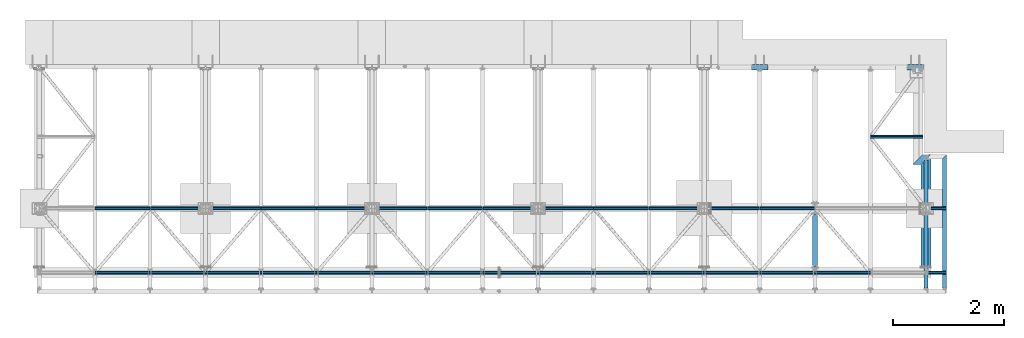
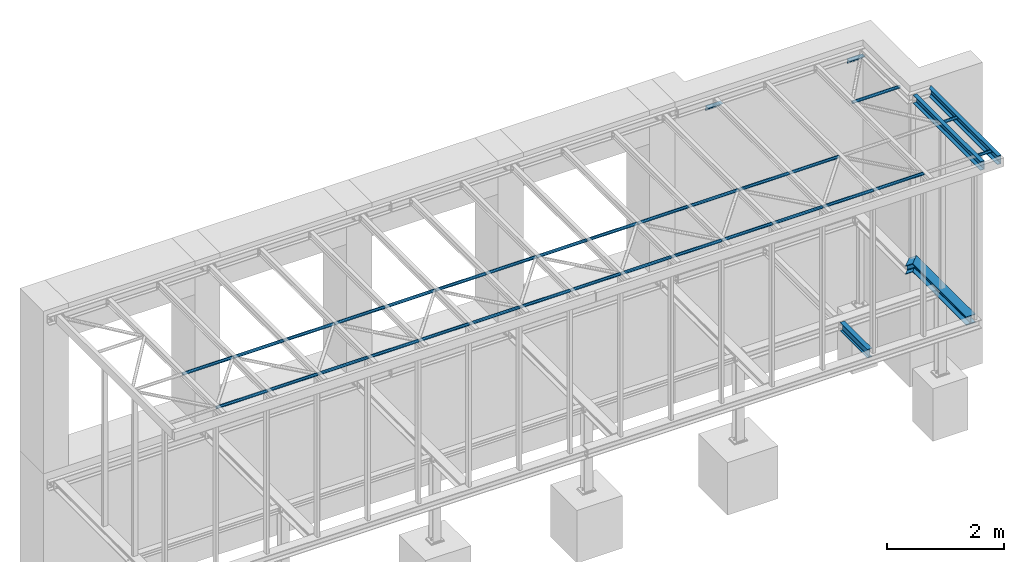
# One storey, part 5 of 23: 37 beams, 37 elements without a shape of their own.
"""IFC2X3 building model written with IfcOpenShell, lengths in millimetres."""

import ifcopenshell
import ifcopenshell.guid

model = None  # the IFC model being written
_history = None  # IfcOwnerHistory: only IFC2X3 demands one
_inside = {}  # id of a spatial element -> (the spatial element, [elements in it])
_under = {}  # id of a project, library or spatial element -> (it, [spatial elements below it])
_declared = {}  # id of a project -> (the project, [libraries it declares])
_typed = {}  # id of a type object -> (the type object, [elements of that type])
_made_of = {}  # id of a material, layer set ... -> (it, [elements and type objects made of it])


def new_model(schema):
    """Start an empty IFC model of exactly this schema.

    Asked for "IFC4X3", IfcOpenShell would pick the latest addendum, in which some entities
    have other attributes; the version numbers below select the first issue.
    IFC2X3 requires an IfcOwnerHistory on every rooted entity: one is made here for all.
    """
    global model, _history
    if schema == "IFC4X3":
        model = ifcopenshell.file(schema_version=(4, 3, 0, 0))
    else:
        model = ifcopenshell.file(schema=schema)
    _inside.clear()
    _under.clear()
    _declared.clear()
    _typed.clear()
    _made_of.clear()
    _history = None
    if model.schema == "IFC2X3":
        org = make("IfcOrganization", Name="unknown")
        user = make(
            "IfcPersonAndOrganization",
            ThePerson=make("IfcPerson", FamilyName="unknown"),
            TheOrganization=org,
        )
        app = make(
            "IfcApplication",
            ApplicationDeveloper=org,
            Version="unknown",
            ApplicationFullName="unknown",
            ApplicationIdentifier="unknown",
        )
        _history = make(
            "IfcOwnerHistory",
            OwningUser=user,
            OwningApplication=app,
            ChangeAction="ADDED",
            CreationDate=0,
        )
    return model


def make(cls, **values):
    """One entity of the class cls with the attributes given. An attribute that is None is left unset."""
    return model.create_entity(
        cls, **{name: value for name, value in values.items() if value is not None}
    )


def rooted(cls, **values):
    """An entity with a GlobalId (a new one), such as an element, a storey or a relation."""
    return make(cls, GlobalId=ifcopenshell.guid.new(), OwnerHistory=_history, **values)


def si_unit(unit_type, name, prefix=None):
    """IfcSIUnit, for example si_unit("LENGTHUNIT", "METRE", prefix="MILLI")."""
    return make("IfcSIUnit", UnitType=unit_type, Prefix=prefix, Name=name)


def assignment(units):
    """IfcUnitAssignment: the units of a project."""
    return None if units is None else make("IfcUnitAssignment", Units=units)


def point(xyz):
    """IfcCartesianPoint."""
    return None if xyz is None else make("IfcCartesianPoint", Coordinates=xyz)


def direction(xyz):
    """IfcDirection."""
    return None if xyz is None else make("IfcDirection", DirectionRatios=xyz)


def frame(location, z_axis=None, x_axis=None):
    """IfcAxis2Placement3D, a coordinate frame: its origin and axes. An axis left out is left unset."""
    return make(
        "IfcAxis2Placement3D",
        Location=point(location),
        Axis=direction(z_axis),
        RefDirection=direction(x_axis),
    )


def frame_2d(location, x_axis=None):
    """IfcAxis2Placement2D, a coordinate frame in the plane: its origin and x axis."""
    return make(
        "IfcAxis2Placement2D", Location=point(location), RefDirection=direction(x_axis)
    )


def origin_with_axes():
    """The frame at (0, 0, 0) with the z axis (0, 0, 1) and the x axis (1, 0, 0) written out."""
    return frame((0.0, 0.0, 0.0), z_axis=(0.0, 0.0, 1.0), x_axis=(1.0, 0.0, 0.0))


def origin_2d_with_axis():
    """The frame at (0, 0) in the plane with the x axis (1, 0) written out."""
    return frame_2d((0.0, 0.0), x_axis=(1.0, 0.0))


def place(relative_to, where):
    """IfcLocalPlacement: puts the frame where relative to a parent placement (None: the world)."""
    return make(
        "IfcLocalPlacement", PlacementRelTo=relative_to, RelativePlacement=where
    )


def context(
    kind, dimensions, precision=None, world=None, true_north=None, identifier=None
):
    """IfcGeometricRepresentationContext, for example the 3D "Model" context."""
    return make(
        "IfcGeometricRepresentationContext",
        ContextIdentifier=identifier,
        ContextType=kind,
        CoordinateSpaceDimension=dimensions,
        Precision=precision,
        WorldCoordinateSystem=world,
        TrueNorth=true_north,
    )


def subcontext(parent, identifier, kind, view, scale=None):
    """IfcGeometricRepresentationSubContext, for example "Body" below "Model"."""
    return make(
        "IfcGeometricRepresentationSubContext",
        ContextIdentifier=identifier,
        ContextType=kind,
        ParentContext=parent,
        TargetScale=scale,
        TargetView=view,
    )


def project(units=None, contexts=None):
    """IfcProject with its units and contexts."""
    return rooted(
        "IfcProject",
        Name="project",
        RepresentationContexts=contexts,
        UnitsInContext=assignment(units),
    )


def spatial(cls, under=None, at=None, **own):
    """A site, building, storey or space (cls), placed at a placement, below another one or the project."""
    s = rooted(cls, ObjectPlacement=at, **own)
    if under is not None:
        _under.setdefault(under.id(), (under, []))[1].append(s)
    return s


def profile(cls, at=None, kind="AREA", **sizes):
    """A parametric profile (cls). Its sizes go by their IFC names, for example OverallWidth=200.0."""
    return make(cls, ProfileType=kind, Position=at, **sizes)


def hollow_circle(**sizes):
    """IfcCircleHollowProfileDef."""
    return profile("IfcCircleHollowProfileDef", **sizes)


def i_section(**sizes):
    """IfcIShapeProfileDef."""
    return profile("IfcIShapeProfileDef", **sizes)


def l_section(**sizes):
    """IfcLShapeProfileDef."""
    return profile("IfcLShapeProfileDef", **sizes)


def u_section(**sizes):
    """IfcUShapeProfileDef."""
    return profile("IfcUShapeProfileDef", **sizes)


def extrude(swept, where, along, depth):
    """IfcExtrudedAreaSolid: the profile swept, set in the frame where, extruded along a direction by depth."""
    return make(
        "IfcExtrudedAreaSolid",
        SweptArea=swept,
        Position=where,
        ExtrudedDirection=direction(along),
        Depth=depth,
    )


def clip(a, b, op="DIFFERENCE"):
    """IfcBooleanClippingResult: the solid a cut by the half space b."""
    return make(
        "IfcBooleanClippingResult", Operator=op, FirstOperand=a, SecondOperand=b
    )


def halfspace(plane, agree):
    """IfcHalfSpaceSolid: all space on one side of the plane z = 0 of the frame plane."""
    return make(
        "IfcHalfSpaceSolid",
        BaseSurface=make("IfcPlane", Position=plane),
        AgreementFlag=agree,
    )


def shape(context_of_items, identifier, shape_type, items):
    """IfcShapeRepresentation: the items that make up one representation, for example the "Body"."""
    return make(
        "IfcShapeRepresentation",
        ContextOfItems=context_of_items,
        RepresentationIdentifier=identifier,
        RepresentationType=shape_type,
        Items=items,
    )


def material(Name=None, Category=None):
    """IfcMaterial."""
    return make("IfcMaterial", Name=Name, Category=Category)


def made_of(thing, what):
    """Note that an element or type object is made of a material, layer set ...; save() writes the relation."""
    if what is not None:
        _made_of.setdefault(what.id(), (what, []))[1].append(thing)
    return thing


def type_object(cls, material=None, **own):
    """A type object (cls), such as IfcWallType, which elements share."""
    return made_of(rooted(cls, **own), material)


def element(
    cls,
    number,
    at=None,
    inside=None,
    cuts=None,
    type_object=None,
    material=None,
    context=None,
    identifier="Body",
    shape_type=None,
    held_by="IfcProductDefinitionShape",
    body=None,
    shapes=None,
    **own,
):
    """One element of the class cls, such as IfcWall. Its Tag is "e" and its number.

    at: its placement. inside: the storey or other place that contains it. cuts: it is an
    opening in that element (IfcRelVoidsElement). A single representation is given by context,
    identifier, shape_type and body (its items); several are given by shapes. held_by: the class
    of the entity that holds the representations. save() writes the other relations.
    """
    e = rooted(cls, Tag="e%d" % number, ObjectPlacement=at, **own)
    if body is not None:
        shapes = [shape(context, identifier, shape_type, body)]
    if shapes is not None:
        e.Representation = make(held_by, Representations=shapes)
    if inside is not None:
        _inside.setdefault(inside.id(), (inside, []))[1].append(e)
    if cuts is not None:
        rooted(
            "IfcRelVoidsElement", RelatingBuildingElement=cuts, RelatedOpeningElement=e
        )
    if type_object is not None:
        _typed.setdefault(type_object.id(), (type_object, []))[1].append(e)
    return made_of(e, material)


def aggregate(whole, parts):
    """IfcRelAggregates: a whole, such as a stair, and the parts it consists of."""
    return rooted("IfcRelAggregates", RelatingObject=whole, RelatedObjects=parts)


def save(model, path):
    """Write the relations noted so far, then the file.

    IfcRelAggregates (storeys below a building ...), IfcRelContainedInSpatialStructure (elements
    in a storey), IfcRelDefinesByType, IfcRelAssociatesMaterial and IfcRelDeclares: one each for
    every whole, place, type object, material and project.
    """
    for whole, parts in _under.values():
        aggregate(whole, parts)
    for where, things in _inside.values():
        rooted(
            "IfcRelContainedInSpatialStructure",
            RelatedElements=things,
            RelatingStructure=where,
        )
    for kind, things in _typed.values():
        rooted("IfcRelDefinesByType", RelatedObjects=things, RelatingType=kind)
    for what, things in _made_of.values():
        rooted("IfcRelAssociatesMaterial", RelatedObjects=things, RelatingMaterial=what)
    for by, libraries in _declared.values():
        rooted("IfcRelDeclares", RelatingContext=by, RelatedDefinitions=libraries)
    model.write(path)


model = new_model("IFC2X3")

# Units and contexts
model_context = context("Model", 3, precision=1e-05, world=origin_with_axes())
body_context = subcontext(model_context, "Body", "Model", "MODEL_VIEW")
ifc_project = project(units=[si_unit("LENGTHUNIT", "METRE", prefix="MILLI"), si_unit("AREAUNIT", "SQUARE_METRE"), si_unit("VOLUMEUNIT", "CUBIC_METRE"), si_unit("MASSUNIT", "GRAM", prefix="KILO"), si_unit("TIMEUNIT", "SECOND"), si_unit("PLANEANGLEUNIT", "RADIAN"), si_unit("SOLIDANGLEUNIT", "STERADIAN"), si_unit("THERMODYNAMICTEMPERATUREUNIT", "DEGREE_CELSIUS"), si_unit("LUMINOUSINTENSITYUNIT", "LUMEN")], contexts=[model_context])

# Site, building, storey
site_placement = place(None, origin_with_axes())
site = spatial("IfcSite", under=ifc_project, at=site_placement, Name="Undefined", CompositionType="ELEMENT")
building_placement = place(site_placement, origin_with_axes())
building = spatial("IfcBuilding", under=site, at=building_placement, Name="Undefined", CompositionType="ELEMENT")
storey_placement = place(building_placement, origin_with_axes())
storey = spatial("IfcBuildingStorey", under=building, at=storey_placement, Name="Undefined", CompositionType="ELEMENT", Elevation=0.0)

# Assembly, beam
assembly_1_placement = place(storey_placement, origin_with_axes())
assembly_1 = element("IfcElementAssembly", 1, at=assembly_1_placement, inside=storey, Name="Steel Assembly", AssemblyPlace="NOTDEFINED", PredefinedType="RIGID_FRAME")
ifc_material = material(Name="STEEL/S235JR")
beam_type_1 = type_object("IfcBeamType", Name="CHS60.3*5", PredefinedType="NOTDEFINED")
beam_1_placement = place(assembly_1_placement, frame((16090.0, 100.0, 3230.0), z_axis=(0.0, 0.0, -1.0), x_axis=(1.0, 0.0, 0.0)))
beam_1 = element("IfcBeam", 2, at=beam_1_placement, type_object=beam_type_1, material=ifc_material, Name="NOSNÍK", ObjectType="CHS60.3*5", context=body_context, shape_type="SweptSolid", body=[
    extrude(hollow_circle(Radius=30.15, WallThickness=5.0, at=origin_2d_with_axis()), frame((329.5, 0.0, 0.0), z_axis=(-1.0, 0.0, 0.0), x_axis=(0.0, -1.0, 0.0)), (0.0, 0.0, 1.0), 329.5),
])
aggregate(assembly_1, [beam_1])

assembly_2_placement = place(storey_placement, origin_with_axes())
assembly_2 = element("IfcElementAssembly", 3, at=assembly_2_placement, inside=storey, Name="Steel Assembly", AssemblyPlace="NOTDEFINED", PredefinedType="RIGID_FRAME")
beam_2_placement = place(assembly_2_placement, frame((16090.0, 1260.0, 3230.0), z_axis=(0.0, 0.0, -1.0), x_axis=(1.0, 0.0, 0.0)))
beam_2 = element("IfcBeam", 4, at=beam_2_placement, type_object=beam_type_1, material=ifc_material, Name="NOSNÍK", ObjectType="CHS60.3*5", context=body_context, shape_type="SweptSolid", body=[
    extrude(hollow_circle(Radius=30.15, WallThickness=5.0, at=origin_2d_with_axis()), frame((329.5, 0.0, 0.0), z_axis=(-1.0, 0.0, 0.0), x_axis=(0.0, -1.0, 0.0)), (0.0, 0.0, 1.0), 329.5),
])
aggregate(assembly_2, [beam_2])

assembly_3_placement = place(storey_placement, origin_with_axes())
assembly_3 = element("IfcElementAssembly", 5, at=assembly_3_placement, inside=storey, Name="Steel Assembly", AssemblyPlace="NOTDEFINED", PredefinedType="RIGID_FRAME")
beam_3_placement = place(assembly_3_placement, frame((15050.0, 2550.0, 3230.0), z_axis=(0.0, 0.0, -1.0), x_axis=(1.0, 0.0, 0.0)))
beam_3 = element("IfcBeam", 6, at=beam_3_placement, type_object=beam_type_1, material=ifc_material, Name="NOSNÍK", ObjectType="CHS60.3*5", context=body_context, shape_type="SweptSolid", body=[
    extrude(hollow_circle(Radius=30.15, WallThickness=5.0, at=origin_2d_with_axis()), frame((945.0, 0.0, 0.0), z_axis=(-1.0, 0.0, 0.0), x_axis=(0.0, -1.0, 0.0)), (0.0, 0.0, 1.0), 945.0),
])
aggregate(assembly_3, [beam_3])

assembly_4_placement = place(storey_placement, origin_with_axes())
assembly_4 = element("IfcElementAssembly", 7, at=assembly_4_placement, inside=storey, Name="Steel Assembly", AssemblyPlace="NOTDEFINED", PredefinedType="RIGID_FRAME")
beam_4_placement = place(assembly_4_placement, frame((14052.35, 100.0, 3230.0), z_axis=(0.0, 0.0, -1.0), x_axis=(1.0, 0.0, 0.0)))
beam_4 = element("IfcBeam", 8, at=beam_4_placement, type_object=beam_type_1, material=ifc_material, Name="NOSNÍK", ObjectType="CHS60.3*5", context=body_context, shape_type="SweptSolid", body=[
    extrude(hollow_circle(Radius=30.15, WallThickness=5.0, at=origin_2d_with_axis()), frame((995.299999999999, 0.0, 0.0), z_axis=(-1.0, 0.0, 0.0), x_axis=(0.0, -1.0, 0.0)), (0.0, 0.0, 1.0), 995.3),
])
aggregate(assembly_4, [beam_4])

assembly_5_placement = place(storey_placement, origin_with_axes())
assembly_5 = element("IfcElementAssembly", 9, at=assembly_5_placement, inside=storey, Name="Steel Assembly", AssemblyPlace="NOTDEFINED", PredefinedType="RIGID_FRAME")
beam_5_placement = place(assembly_5_placement, frame((13052.35, 100.0, 3230.0), z_axis=(0.0, 0.0, -1.0), x_axis=(1.0, 0.0, 0.0)))
beam_5 = element("IfcBeam", 10, at=beam_5_placement, type_object=beam_type_1, material=ifc_material, Name="NOSNÍK", ObjectType="CHS60.3*5", context=body_context, shape_type="SweptSolid", body=[
    extrude(hollow_circle(Radius=30.15, WallThickness=5.0, at=origin_2d_with_axis()), frame((995.299999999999, 0.0, 0.0), z_axis=(-1.0, 0.0, 0.0), x_axis=(0.0, -1.0, 0.0)), (0.0, 0.0, 1.0), 995.3),
])
aggregate(assembly_5, [beam_5])

assembly_6_placement = place(storey_placement, origin_with_axes())
assembly_6 = element("IfcElementAssembly", 11, at=assembly_6_placement, inside=storey, Name="Steel Assembly", AssemblyPlace="NOTDEFINED", PredefinedType="RIGID_FRAME")
beam_6_placement = place(assembly_6_placement, frame((12052.35, 100.0, 3230.0), z_axis=(0.0, 0.0, -1.0), x_axis=(1.0, 0.0, 0.0)))
beam_6 = element("IfcBeam", 12, at=beam_6_placement, type_object=beam_type_1, material=ifc_material, Name="NOSNÍK", ObjectType="CHS60.3*5", context=body_context, shape_type="SweptSolid", body=[
    extrude(hollow_circle(Radius=30.15, WallThickness=5.0, at=origin_2d_with_axis()), frame((995.299999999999, 0.0, 0.0), z_axis=(-1.0, 0.0, 0.0), x_axis=(0.0, -1.0, 0.0)), (0.0, 0.0, 1.0), 995.3),
])
aggregate(assembly_6, [beam_6])

assembly_7_placement = place(storey_placement, origin_with_axes())
assembly_7 = element("IfcElementAssembly", 13, at=assembly_7_placement, inside=storey, Name="Steel Assembly", AssemblyPlace="NOTDEFINED", PredefinedType="RIGID_FRAME")
beam_7_placement = place(assembly_7_placement, frame((11052.35, 100.0, 3230.0), z_axis=(0.0, 0.0, -1.0), x_axis=(1.0, 0.0, 0.0)))
beam_7 = element("IfcBeam", 14, at=beam_7_placement, type_object=beam_type_1, material=ifc_material, Name="NOSNÍK", ObjectType="CHS60.3*5", context=body_context, shape_type="SweptSolid", body=[
    extrude(hollow_circle(Radius=30.15, WallThickness=5.0, at=origin_2d_with_axis()), frame((995.299999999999, 0.0, 0.0), z_axis=(-1.0, 0.0, 0.0), x_axis=(0.0, -1.0, 0.0)), (0.0, 0.0, 1.0), 995.3),
])
aggregate(assembly_7, [beam_7])

assembly_8_placement = place(storey_placement, origin_with_axes())
assembly_8 = element("IfcElementAssembly", 15, at=assembly_8_placement, inside=storey, Name="Steel Assembly", AssemblyPlace="NOTDEFINED", PredefinedType="RIGID_FRAME")
beam_8_placement = place(assembly_8_placement, frame((10052.35, 100.0, 3230.0), z_axis=(0.0, 0.0, -1.0), x_axis=(1.0, 0.0, 0.0)))
beam_8 = element("IfcBeam", 16, at=beam_8_placement, type_object=beam_type_1, material=ifc_material, Name="NOSNÍK", ObjectType="CHS60.3*5", context=body_context, shape_type="SweptSolid", body=[
    extrude(hollow_circle(Radius=30.15, WallThickness=5.0, at=origin_2d_with_axis()), frame((995.299999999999, 0.0, 0.0), z_axis=(-1.0, 0.0, 0.0), x_axis=(0.0, -1.0, 0.0)), (0.0, 0.0, 1.0), 995.3),
])
aggregate(assembly_8, [beam_8])

assembly_9_placement = place(storey_placement, origin_with_axes())
assembly_9 = element("IfcElementAssembly", 17, at=assembly_9_placement, inside=storey, Name="Steel Assembly", AssemblyPlace="NOTDEFINED", PredefinedType="RIGID_FRAME")
beam_9_placement = place(assembly_9_placement, frame((9052.35, 100.0, 3230.0), z_axis=(0.0, 0.0, -1.0), x_axis=(1.0, 0.0, 0.0)))
beam_9 = element("IfcBeam", 18, at=beam_9_placement, type_object=beam_type_1, material=ifc_material, Name="NOSNÍK", ObjectType="CHS60.3*5", context=body_context, shape_type="SweptSolid", body=[
    extrude(hollow_circle(Radius=30.15, WallThickness=5.0, at=origin_2d_with_axis()), frame((995.299999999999, 0.0, 0.0), z_axis=(-1.0, 0.0, 0.0), x_axis=(0.0, -1.0, 0.0)), (0.0, 0.0, 1.0), 995.3),
])
aggregate(assembly_9, [beam_9])

assembly_10_placement = place(storey_placement, origin_with_axes())
assembly_10 = element("IfcElementAssembly", 19, at=assembly_10_placement, inside=storey, Name="Steel Assembly", AssemblyPlace="NOTDEFINED", PredefinedType="RIGID_FRAME")
beam_10_placement = place(assembly_10_placement, frame((8052.35, 100.0, 3230.0), z_axis=(0.0, 0.0, -1.0), x_axis=(1.0, 0.0, 0.0)))
beam_10 = element("IfcBeam", 20, at=beam_10_placement, type_object=beam_type_1, material=ifc_material, Name="NOSNÍK", ObjectType="CHS60.3*5", context=body_context, shape_type="SweptSolid", body=[
    extrude(hollow_circle(Radius=30.15, WallThickness=5.0, at=origin_2d_with_axis()), frame((995.299999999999, 0.0, 0.0), z_axis=(-1.0, 0.0, 0.0), x_axis=(0.0, -1.0, 0.0)), (0.0, 0.0, 1.0), 995.3),
])
aggregate(assembly_10, [beam_10])

assembly_11_placement = place(storey_placement, origin_with_axes())
assembly_11 = element("IfcElementAssembly", 21, at=assembly_11_placement, inside=storey, Name="Steel Assembly", AssemblyPlace="NOTDEFINED", PredefinedType="RIGID_FRAME")
beam_11_placement = place(assembly_11_placement, frame((7052.35, 100.0, 3230.0), z_axis=(0.0, 0.0, -1.0), x_axis=(1.0, 0.0, 0.0)))
beam_11 = element("IfcBeam", 22, at=beam_11_placement, type_object=beam_type_1, material=ifc_material, Name="NOSNÍK", ObjectType="CHS60.3*5", context=body_context, shape_type="SweptSolid", body=[
    extrude(hollow_circle(Radius=30.15, WallThickness=5.0, at=origin_2d_with_axis()), frame((995.299999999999, 0.0, 0.0), z_axis=(-1.0, 0.0, 0.0), x_axis=(0.0, -1.0, 0.0)), (0.0, 0.0, 1.0), 995.3),
])
aggregate(assembly_11, [beam_11])

assembly_12_placement = place(storey_placement, origin_with_axes())
assembly_12 = element("IfcElementAssembly", 23, at=assembly_12_placement, inside=storey, Name="Steel Assembly", AssemblyPlace="NOTDEFINED", PredefinedType="RIGID_FRAME")
beam_12_placement = place(assembly_12_placement, frame((6052.35, 100.0, 3230.0), z_axis=(0.0, 0.0, -1.0), x_axis=(1.0, 0.0, 0.0)))
beam_12 = element("IfcBeam", 24, at=beam_12_placement, type_object=beam_type_1, material=ifc_material, Name="NOSNÍK", ObjectType="CHS60.3*5", context=body_context, shape_type="SweptSolid", body=[
    extrude(hollow_circle(Radius=30.15, WallThickness=5.0, at=origin_2d_with_axis()), frame((995.299999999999, 0.0, 0.0), z_axis=(-1.0, 0.0, 0.0), x_axis=(0.0, -1.0, 0.0)), (0.0, 0.0, 1.0), 995.3),
])
aggregate(assembly_12, [beam_12])

assembly_13_placement = place(storey_placement, origin_with_axes())
assembly_13 = element("IfcElementAssembly", 25, at=assembly_13_placement, inside=storey, Name="Steel Assembly", AssemblyPlace="NOTDEFINED", PredefinedType="RIGID_FRAME")
beam_13_placement = place(assembly_13_placement, frame((5052.35, 100.0, 3230.0), z_axis=(0.0, 0.0, -1.0), x_axis=(1.0, 0.0, 0.0)))
beam_13 = element("IfcBeam", 26, at=beam_13_placement, type_object=beam_type_1, material=ifc_material, Name="NOSNÍK", ObjectType="CHS60.3*5", context=body_context, shape_type="SweptSolid", body=[
    extrude(hollow_circle(Radius=30.15, WallThickness=5.0, at=origin_2d_with_axis()), frame((995.299999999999, 0.0, 0.0), z_axis=(-1.0, 0.0, 0.0), x_axis=(0.0, -1.0, 0.0)), (0.0, 0.0, 1.0), 995.3),
])
aggregate(assembly_13, [beam_13])

assembly_14_placement = place(storey_placement, origin_with_axes())
assembly_14 = element("IfcElementAssembly", 27, at=assembly_14_placement, inside=storey, Name="Steel Assembly", AssemblyPlace="NOTDEFINED", PredefinedType="RIGID_FRAME")
beam_14_placement = place(assembly_14_placement, frame((4052.35, 100.0, 3230.0), z_axis=(0.0, 0.0, -1.0), x_axis=(1.0, 0.0, 0.0)))
beam_14 = element("IfcBeam", 28, at=beam_14_placement, type_object=beam_type_1, material=ifc_material, Name="NOSNÍK", ObjectType="CHS60.3*5", context=body_context, shape_type="SweptSolid", body=[
    extrude(hollow_circle(Radius=30.15, WallThickness=5.0, at=origin_2d_with_axis()), frame((995.299999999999, 0.0, 0.0), z_axis=(-1.0, 0.0, 0.0), x_axis=(0.0, -1.0, 0.0)), (0.0, 0.0, 1.0), 995.3),
])
aggregate(assembly_14, [beam_14])

assembly_15_placement = place(storey_placement, origin_with_axes())
assembly_15 = element("IfcElementAssembly", 29, at=assembly_15_placement, inside=storey, Name="Steel Assembly", AssemblyPlace="NOTDEFINED", PredefinedType="RIGID_FRAME")
beam_15_placement = place(assembly_15_placement, frame((3052.35, 100.0, 3230.0), z_axis=(0.0, 0.0, -1.0), x_axis=(1.0, 0.0, 0.0)))
beam_15 = element("IfcBeam", 30, at=beam_15_placement, type_object=beam_type_1, material=ifc_material, Name="NOSNÍK", ObjectType="CHS60.3*5", context=body_context, shape_type="SweptSolid", body=[
    extrude(hollow_circle(Radius=30.15, WallThickness=5.0, at=origin_2d_with_axis()), frame((995.299999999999, 0.0, 0.0), z_axis=(-1.0, 0.0, 0.0), x_axis=(0.0, -1.0, 0.0)), (0.0, 0.0, 1.0), 995.3),
])
aggregate(assembly_15, [beam_15])

assembly_16_placement = place(storey_placement, origin_with_axes())
assembly_16 = element("IfcElementAssembly", 31, at=assembly_16_placement, inside=storey, Name="Steel Assembly", AssemblyPlace="NOTDEFINED", PredefinedType="RIGID_FRAME")
beam_16_placement = place(assembly_16_placement, frame((2052.35, 100.0, 3230.0), z_axis=(0.0, 0.0, -1.0), x_axis=(1.0, 0.0, 0.0)))
beam_16 = element("IfcBeam", 32, at=beam_16_placement, type_object=beam_type_1, material=ifc_material, Name="NOSNÍK", ObjectType="CHS60.3*5", context=body_context, shape_type="SweptSolid", body=[
    extrude(hollow_circle(Radius=30.15, WallThickness=5.0, at=origin_2d_with_axis()), frame((995.299999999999, 0.0, 0.0), z_axis=(-1.0, 0.0, 0.0), x_axis=(0.0, -1.0, 0.0)), (0.0, 0.0, 1.0), 995.3),
])
aggregate(assembly_16, [beam_16])

assembly_17_placement = place(storey_placement, origin_with_axes())
assembly_17 = element("IfcElementAssembly", 33, at=assembly_17_placement, inside=storey, Name="Steel Assembly", AssemblyPlace="NOTDEFINED", PredefinedType="RIGID_FRAME")
beam_17_placement = place(assembly_17_placement, frame((1052.35, 100.0, 3230.0), z_axis=(0.0, 0.0, -1.0), x_axis=(1.0, 0.0, 0.0)))
beam_17 = element("IfcBeam", 34, at=beam_17_placement, type_object=beam_type_1, material=ifc_material, Name="NOSNÍK", ObjectType="CHS60.3*5", context=body_context, shape_type="SweptSolid", body=[
    extrude(hollow_circle(Radius=30.15, WallThickness=5.0, at=origin_2d_with_axis()), frame((995.299999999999, 0.0, 0.0), z_axis=(-1.0, 0.0, 0.0), x_axis=(0.0, -1.0, 0.0)), (0.0, 0.0, 1.0), 995.3),
])
aggregate(assembly_17, [beam_17])

assembly_18_placement = place(storey_placement, origin_with_axes())
assembly_18 = element("IfcElementAssembly", 35, at=assembly_18_placement, inside=storey, Name="Steel Assembly", AssemblyPlace="NOTDEFINED", PredefinedType="RIGID_FRAME")
beam_18_placement = place(assembly_18_placement, frame((13052.35, 1260.0, 3230.0), z_axis=(0.0, 0.0, -1.0), x_axis=(1.0, 0.0, 0.0)))
beam_18 = element("IfcBeam", 36, at=beam_18_placement, type_object=beam_type_1, material=ifc_material, Name="NOSNÍK", ObjectType="CHS60.3*5", context=body_context, shape_type="SweptSolid", body=[
    extrude(hollow_circle(Radius=30.15, WallThickness=5.0, at=origin_2d_with_axis()), frame((995.299999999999, 0.0, 0.0), z_axis=(-1.0, 0.0, 0.0), x_axis=(0.0, -1.0, 0.0)), (0.0, 0.0, 1.0), 995.3),
])
aggregate(assembly_18, [beam_18])

assembly_19_placement = place(storey_placement, origin_with_axes())
assembly_19 = element("IfcElementAssembly", 37, at=assembly_19_placement, inside=storey, Name="Steel Assembly", AssemblyPlace="NOTDEFINED", PredefinedType="RIGID_FRAME")
beam_19_placement = place(assembly_19_placement, frame((12052.35, 1260.0, 3230.0), z_axis=(0.0, 0.0, -1.0), x_axis=(1.0, 0.0, 0.0)))
beam_19 = element("IfcBeam", 38, at=beam_19_placement, type_object=beam_type_1, material=ifc_material, Name="NOSNÍK", ObjectType="CHS60.3*5", context=body_context, shape_type="SweptSolid", body=[
    extrude(hollow_circle(Radius=30.15, WallThickness=5.0, at=origin_2d_with_axis()), frame((995.299999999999, 0.0, 0.0), z_axis=(-1.0, 0.0, 0.0), x_axis=(0.0, -1.0, 0.0)), (0.0, 0.0, 1.0), 995.3),
])
aggregate(assembly_19, [beam_19])

assembly_20_placement = place(storey_placement, origin_with_axes())
assembly_20 = element("IfcElementAssembly", 39, at=assembly_20_placement, inside=storey, Name="Steel Assembly", AssemblyPlace="NOTDEFINED", PredefinedType="RIGID_FRAME")
beam_20_placement = place(assembly_20_placement, frame((11052.35, 1260.0, 3230.0), z_axis=(0.0, 0.0, -1.0), x_axis=(1.0, 0.0, 0.0)))
beam_20 = element("IfcBeam", 40, at=beam_20_placement, type_object=beam_type_1, material=ifc_material, Name="NOSNÍK", ObjectType="CHS60.3*5", context=body_context, shape_type="SweptSolid", body=[
    extrude(hollow_circle(Radius=30.15, WallThickness=5.0, at=origin_2d_with_axis()), frame((995.299999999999, 0.0, 0.0), z_axis=(-1.0, 0.0, 0.0), x_axis=(0.0, -1.0, 0.0)), (0.0, 0.0, 1.0), 995.3),
])
aggregate(assembly_20, [beam_20])

assembly_21_placement = place(storey_placement, origin_with_axes())
assembly_21 = element("IfcElementAssembly", 41, at=assembly_21_placement, inside=storey, Name="Steel Assembly", AssemblyPlace="NOTDEFINED", PredefinedType="RIGID_FRAME")
beam_21_placement = place(assembly_21_placement, frame((10052.35, 1260.0, 3230.0), z_axis=(0.0, 0.0, -1.0), x_axis=(1.0, 0.0, 0.0)))
beam_21 = element("IfcBeam", 42, at=beam_21_placement, type_object=beam_type_1, material=ifc_material, Name="NOSNÍK", ObjectType="CHS60.3*5", context=body_context, shape_type="SweptSolid", body=[
    extrude(hollow_circle(Radius=30.15, WallThickness=5.0, at=origin_2d_with_axis()), frame((995.299999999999, 0.0, 0.0), z_axis=(-1.0, 0.0, 0.0), x_axis=(0.0, -1.0, 0.0)), (0.0, 0.0, 1.0), 995.3),
])
aggregate(assembly_21, [beam_21])

assembly_22_placement = place(storey_placement, origin_with_axes())
assembly_22 = element("IfcElementAssembly", 43, at=assembly_22_placement, inside=storey, Name="Steel Assembly", AssemblyPlace="NOTDEFINED", PredefinedType="RIGID_FRAME")
beam_22_placement = place(assembly_22_placement, frame((9052.35, 1260.0, 3230.0), z_axis=(0.0, 0.0, -1.0), x_axis=(1.0, 0.0, 0.0)))
beam_22 = element("IfcBeam", 44, at=beam_22_placement, type_object=beam_type_1, material=ifc_material, Name="NOSNÍK", ObjectType="CHS60.3*5", context=body_context, shape_type="SweptSolid", body=[
    extrude(hollow_circle(Radius=30.15, WallThickness=5.0, at=origin_2d_with_axis()), frame((995.299999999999, 0.0, 0.0), z_axis=(-1.0, 0.0, 0.0), x_axis=(0.0, -1.0, 0.0)), (0.0, 0.0, 1.0), 995.3),
])
aggregate(assembly_22, [beam_22])

assembly_23_placement = place(storey_placement, origin_with_axes())
assembly_23 = element("IfcElementAssembly", 45, at=assembly_23_placement, inside=storey, Name="Steel Assembly", AssemblyPlace="NOTDEFINED", PredefinedType="RIGID_FRAME")
beam_23_placement = place(assembly_23_placement, frame((8052.35, 1260.0, 3230.0), z_axis=(0.0, 0.0, -1.0), x_axis=(1.0, 0.0, 0.0)))
beam_23 = element("IfcBeam", 46, at=beam_23_placement, type_object=beam_type_1, material=ifc_material, Name="NOSNÍK", ObjectType="CHS60.3*5", context=body_context, shape_type="SweptSolid", body=[
    extrude(hollow_circle(Radius=30.15, WallThickness=5.0, at=origin_2d_with_axis()), frame((995.299999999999, 0.0, 0.0), z_axis=(-1.0, 0.0, 0.0), x_axis=(0.0, -1.0, 0.0)), (0.0, 0.0, 1.0), 995.3),
])
aggregate(assembly_23, [beam_23])

assembly_24_placement = place(storey_placement, origin_with_axes())
assembly_24 = element("IfcElementAssembly", 47, at=assembly_24_placement, inside=storey, Name="Steel Assembly", AssemblyPlace="NOTDEFINED", PredefinedType="RIGID_FRAME")
beam_24_placement = place(assembly_24_placement, frame((7052.35, 1260.0, 3230.0), z_axis=(0.0, 0.0, -1.0), x_axis=(1.0, 0.0, 0.0)))
beam_24 = element("IfcBeam", 48, at=beam_24_placement, type_object=beam_type_1, material=ifc_material, Name="NOSNÍK", ObjectType="CHS60.3*5", context=body_context, shape_type="SweptSolid", body=[
    extrude(hollow_circle(Radius=30.15, WallThickness=5.0, at=origin_2d_with_axis()), frame((995.299999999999, 0.0, 0.0), z_axis=(-1.0, 0.0, 0.0), x_axis=(0.0, -1.0, 0.0)), (0.0, 0.0, 1.0), 995.3),
])
aggregate(assembly_24, [beam_24])

assembly_25_placement = place(storey_placement, origin_with_axes())
assembly_25 = element("IfcElementAssembly", 49, at=assembly_25_placement, inside=storey, Name="Steel Assembly", AssemblyPlace="NOTDEFINED", PredefinedType="RIGID_FRAME")
beam_25_placement = place(assembly_25_placement, frame((6052.35, 1260.0, 3230.0), z_axis=(0.0, 0.0, -1.0), x_axis=(1.0, 0.0, 0.0)))
beam_25 = element("IfcBeam", 50, at=beam_25_placement, type_object=beam_type_1, material=ifc_material, Name="NOSNÍK", ObjectType="CHS60.3*5", context=body_context, shape_type="SweptSolid", body=[
    extrude(hollow_circle(Radius=30.15, WallThickness=5.0, at=origin_2d_with_axis()), frame((995.299999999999, 0.0, 0.0), z_axis=(-1.0, 0.0, 0.0), x_axis=(0.0, -1.0, 0.0)), (0.0, 0.0, 1.0), 995.3),
])
aggregate(assembly_25, [beam_25])

assembly_26_placement = place(storey_placement, origin_with_axes())
assembly_26 = element("IfcElementAssembly", 51, at=assembly_26_placement, inside=storey, Name="Steel Assembly", AssemblyPlace="NOTDEFINED", PredefinedType="RIGID_FRAME")
beam_26_placement = place(assembly_26_placement, frame((5052.35, 1260.0, 3230.0), z_axis=(0.0, 0.0, -1.0), x_axis=(1.0, 0.0, 0.0)))
beam_26 = element("IfcBeam", 52, at=beam_26_placement, type_object=beam_type_1, material=ifc_material, Name="NOSNÍK", ObjectType="CHS60.3*5", context=body_context, shape_type="SweptSolid", body=[
    extrude(hollow_circle(Radius=30.15, WallThickness=5.0, at=origin_2d_with_axis()), frame((995.299999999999, 0.0, 0.0), z_axis=(-1.0, 0.0, 0.0), x_axis=(0.0, -1.0, 0.0)), (0.0, 0.0, 1.0), 995.3),
])
aggregate(assembly_26, [beam_26])

assembly_27_placement = place(storey_placement, origin_with_axes())
assembly_27 = element("IfcElementAssembly", 53, at=assembly_27_placement, inside=storey, Name="Steel Assembly", AssemblyPlace="NOTDEFINED", PredefinedType="RIGID_FRAME")
beam_27_placement = place(assembly_27_placement, frame((4052.35, 1260.0, 3230.0), z_axis=(0.0, 0.0, -1.0), x_axis=(1.0, 0.0, 0.0)))
beam_27 = element("IfcBeam", 54, at=beam_27_placement, type_object=beam_type_1, material=ifc_material, Name="NOSNÍK", ObjectType="CHS60.3*5", context=body_context, shape_type="SweptSolid", body=[
    extrude(hollow_circle(Radius=30.15, WallThickness=5.0, at=origin_2d_with_axis()), frame((995.299999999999, 0.0, 0.0), z_axis=(-1.0, 0.0, 0.0), x_axis=(0.0, -1.0, 0.0)), (0.0, 0.0, 1.0), 995.3),
])
aggregate(assembly_27, [beam_27])

assembly_28_placement = place(storey_placement, origin_with_axes())
assembly_28 = element("IfcElementAssembly", 55, at=assembly_28_placement, inside=storey, Name="Steel Assembly", AssemblyPlace="NOTDEFINED", PredefinedType="RIGID_FRAME")
beam_28_placement = place(assembly_28_placement, frame((3052.35, 1260.0, 3230.0), z_axis=(0.0, 0.0, -1.0), x_axis=(1.0, 0.0, 0.0)))
beam_28 = element("IfcBeam", 56, at=beam_28_placement, type_object=beam_type_1, material=ifc_material, Name="NOSNÍK", ObjectType="CHS60.3*5", context=body_context, shape_type="SweptSolid", body=[
    extrude(hollow_circle(Radius=30.15, WallThickness=5.0, at=origin_2d_with_axis()), frame((995.299999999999, 0.0, 0.0), z_axis=(-1.0, 0.0, 0.0), x_axis=(0.0, -1.0, 0.0)), (0.0, 0.0, 1.0), 995.3),
])
aggregate(assembly_28, [beam_28])

assembly_29_placement = place(storey_placement, origin_with_axes())
assembly_29 = element("IfcElementAssembly", 57, at=assembly_29_placement, inside=storey, Name="Steel Assembly", AssemblyPlace="NOTDEFINED", PredefinedType="RIGID_FRAME")
beam_29_placement = place(assembly_29_placement, frame((2052.35, 1260.0, 3230.0), z_axis=(0.0, 0.0, -1.0), x_axis=(1.0, 0.0, 0.0)))
beam_29 = element("IfcBeam", 58, at=beam_29_placement, type_object=beam_type_1, material=ifc_material, Name="NOSNÍK", ObjectType="CHS60.3*5", context=body_context, shape_type="SweptSolid", body=[
    extrude(hollow_circle(Radius=30.15, WallThickness=5.0, at=origin_2d_with_axis()), frame((995.299999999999, 0.0, 0.0), z_axis=(-1.0, 0.0, 0.0), x_axis=(0.0, -1.0, 0.0)), (0.0, 0.0, 1.0), 995.3),
])
aggregate(assembly_29, [beam_29])

assembly_30_placement = place(storey_placement, origin_with_axes())
assembly_30 = element("IfcElementAssembly", 59, at=assembly_30_placement, inside=storey, Name="Steel Assembly", AssemblyPlace="NOTDEFINED", PredefinedType="RIGID_FRAME")
beam_30_placement = place(assembly_30_placement, frame((1052.35, 1260.0, 3230.0), z_axis=(0.0, 0.0, -1.0), x_axis=(1.0, 0.0, 0.0)))
beam_30 = element("IfcBeam", 60, at=beam_30_placement, type_object=beam_type_1, material=ifc_material, Name="NOSNÍK", ObjectType="CHS60.3*5", context=body_context, shape_type="SweptSolid", body=[
    extrude(hollow_circle(Radius=30.15, WallThickness=5.0, at=origin_2d_with_axis()), frame((995.299999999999, 0.0, 0.0), z_axis=(-1.0, 0.0, 0.0), x_axis=(0.0, -1.0, 0.0)), (0.0, 0.0, 1.0), 995.3),
])
aggregate(assembly_30, [beam_30])

assembly_31_placement = place(storey_placement, origin_with_axes())
assembly_31 = element("IfcElementAssembly", 61, at=assembly_31_placement, inside=storey, Name="Steel Assembly", AssemblyPlace="NOTDEFINED", PredefinedType="RIGID_FRAME")
beam_type_2 = type_object("IfcBeamType", Name="UPE180", PredefinedType="NOTDEFINED")
beam_31_placement = place(assembly_31_placement, frame((16387.5, -180.0, 3210.0), z_axis=(0.0, 0.0, -1.0), x_axis=(0.0, 1.0, 0.0)))
beam_31 = element("IfcBeam", 62, at=beam_31_placement, type_object=beam_type_2, material=ifc_material, Name="NOSNÍK", ObjectType="UPE180", context=body_context, shape_type="Clipping", body=[
    clip(extrude(u_section(Depth=180.0, FlangeWidth=75.0, WebThickness=5.5, FlangeThickness=10.5, FilletRadius=12.0, at=origin_2d_with_axis()), frame((2410.0, 0.0, 0.0), z_axis=(-1.0, 0.0, 0.0), x_axis=(0.0, -1.0, 0.0)), (0.0, 0.0, 1.0), 2410.0), halfspace(frame((2410.0, 37.5, 90.0), z_axis=(0.707106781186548, -0.707106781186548, 0.0), x_axis=(0.0, 0.0, -1.0)), False)),
])
aggregate(assembly_31, [beam_31])

assembly_32_placement = place(storey_placement, origin_with_axes())
assembly_32 = element("IfcElementAssembly", 63, at=assembly_32_placement, inside=storey, Name="Steel Assembly", AssemblyPlace="NOTDEFINED", PredefinedType="RIGID_FRAME")
beam_32_placement = place(assembly_32_placement, frame((16052.5, -180.0, 3210.0), z_axis=(0.0, 0.0, -1.0), x_axis=(0.0, 1.0, 0.0)))
beam_32 = element("IfcBeam", 64, at=beam_32_placement, type_object=beam_type_2, material=ifc_material, Name="NOSNÍK", ObjectType="UPE180", context=body_context, shape_type="SweptSolid", body=[
    extrude(u_section(Depth=180.0, FlangeWidth=75.0, WebThickness=5.5, FlangeThickness=10.5, FilletRadius=12.0, at=origin_2d_with_axis()), frame((2315.0, 0.0, 0.0), z_axis=(-1.0, 0.0, 0.0), x_axis=(0.0, -1.0, 0.0)), (0.0, 0.0, 1.0), 2315.0),
])
aggregate(assembly_32, [beam_32])

assembly_33_placement = place(storey_placement, origin_with_axes())
assembly_33 = element("IfcElementAssembly", 65, at=assembly_33_placement, inside=storey, Name="Steel Assembly", AssemblyPlace="NOTDEFINED", PredefinedType="RIGID_FRAME")
beam_type_3 = type_object("IfcBeamType", Name="IPE180", PredefinedType="NOTDEFINED")
beam_33_placement = place(assembly_33_placement, frame((14050.0, 1150.0, -250.0), z_axis=(0.0, 0.0, 1.0), x_axis=(0.0, -1.0, 0.0)))
beam_33 = element("IfcBeam", 66, at=beam_33_placement, type_object=beam_type_3, material=ifc_material, Name="NOSNÍK", ObjectType="IPE180", context=body_context, shape_type="SweptSolid", body=[
    extrude(i_section(OverallWidth=91.0, OverallDepth=180.0, WebThickness=5.300000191, FlangeThickness=8.0, FilletRadius=9.0, at=origin_2d_with_axis()), frame((940.0, 0.0, 0.0), z_axis=(-1.0, 0.0, 0.0), x_axis=(0.0, -1.0, 0.0)), (0.0, 0.0, 1.0), 940.0),
])
aggregate(assembly_33, [beam_33])

assembly_34_placement = place(storey_placement, origin_with_axes())
assembly_34 = element("IfcElementAssembly", 67, at=assembly_34_placement, inside=storey, Name="Steel Assembly", AssemblyPlace="NOTDEFINED", PredefinedType="RIGID_FRAME")
beam_type_4 = type_object("IfcBeamType", Name="HEB180", PredefinedType="NOTDEFINED")
beam_34_placement = place(assembly_34_placement, frame((16150.0, 2140.0, -250.0), z_axis=(0.0, 0.0, -1.0), x_axis=(-1.0, 0.0, 0.0)))
beam_34 = element("IfcBeam", 68, at=beam_34_placement, type_object=beam_type_4, material=ifc_material, Name="NOSNÍK", ObjectType="HEB180", context=body_context, shape_type="Clipping", body=[
    clip(clip(extrude(i_section(OverallWidth=180.0, OverallDepth=180.0, WebThickness=8.5, FlangeThickness=14.0, FilletRadius=15.0, at=origin_2d_with_axis()), frame((345.0, 0.0, 0.0), z_axis=(-1.0, 0.0, 0.0), x_axis=(0.0, -1.0, 0.0)), (0.0, 0.0, 1.0), 345.0), halfspace(frame((0.0, 100.0, -90.0), z_axis=(-0.707106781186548, -0.707106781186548, 0.0), x_axis=(0.0, 0.0, 1.0)), False)), halfspace(frame((345.0, -100.0, -90.0), z_axis=(0.707106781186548, 0.707106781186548, 0.0), x_axis=(0.0, 0.0, 1.0)), False)),
])
aggregate(assembly_34, [beam_34])

assembly_35_placement = place(storey_placement, origin_with_axes())
assembly_35 = element("IfcElementAssembly", 69, at=assembly_35_placement, inside=storey, Name="Steel Assembly", AssemblyPlace="NOTDEFINED", PredefinedType="RIGID_FRAME")
beam_35_placement = place(assembly_35_placement, frame((16050.0, 210.0, -250.0), z_axis=(0.0, 0.0, -1.0), x_axis=(0.0, 1.0, 0.0)))
beam_35 = element("IfcBeam", 70, at=beam_35_placement, type_object=beam_type_4, material=ifc_material, Name="NOSNÍK", ObjectType="HEB180", context=body_context, shape_type="Clipping", body=[
    clip(extrude(i_section(OverallWidth=180.0, OverallDepth=180.0, WebThickness=8.5, FlangeThickness=14.0, FilletRadius=15.0, at=origin_2d_with_axis()), frame((2030.0, 0.0, 0.0), z_axis=(-1.0, 0.0, 0.0), x_axis=(0.0, -1.0, 0.0)), (0.0, 0.0, 1.0), 2030.0), halfspace(frame((2030.0, 100.0, 110.0), z_axis=(0.707106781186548, -0.707106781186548, 0.0), x_axis=(0.0, 0.0, -1.0)), False)),
])
aggregate(assembly_35, [beam_35])

assembly_36_placement = place(storey_placement, origin_with_axes())
assembly_36 = element("IfcElementAssembly", 71, at=assembly_36_placement, inside=storey, Name="Steel Assembly", AssemblyPlace="NOTDEFINED", PredefinedType="RIGID_FRAME")
beam_type_5 = type_object("IfcBeamType", Name="L100*10", PredefinedType="NOTDEFINED")
beam_36_placement = place(assembly_36_placement, frame((13200.0, 3810.0, 3070.0), z_axis=(0.0, 0.0, -1.0), x_axis=(-1.0, 0.0, 0.0)))
beam_36 = element("IfcBeam", 72, at=beam_36_placement, type_object=beam_type_5, material=ifc_material, Name="NOSNÍK", ObjectType="L100*10", context=body_context, shape_type="SweptSolid", body=[
    extrude(l_section(Depth=100.0, Width=100.0, Thickness=10.0, FilletRadius=12.0, EdgeRadius=6.0, at=origin_2d_with_axis()), frame((300.0, 0.0, 0.0), z_axis=(-1.0, 0.0, 0.0), x_axis=(0.0, -1.0, 0.0)), (0.0, 0.0, 1.0), 300.0),
])
aggregate(assembly_36, [beam_36])

assembly_37_placement = place(storey_placement, origin_with_axes())
assembly_37 = element("IfcElementAssembly", 73, at=assembly_37_placement, inside=storey, Name="Steel Assembly", AssemblyPlace="NOTDEFINED", PredefinedType="RIGID_FRAME")
beam_37_placement = place(assembly_37_placement, frame((16005.0, 3810.0, 3070.0), z_axis=(0.0, 0.0, -1.0), x_axis=(-1.0, 0.0, 0.0)))
beam_37 = element("IfcBeam", 74, at=beam_37_placement, type_object=beam_type_5, material=ifc_material, Name="NOSNÍK", ObjectType="L100*10", context=body_context, shape_type="SweptSolid", body=[
    extrude(l_section(Depth=100.0, Width=100.0, Thickness=10.0, FilletRadius=12.0, EdgeRadius=6.0, at=origin_2d_with_axis()), frame((300.0, 0.0, 0.0), z_axis=(-1.0, 0.0, 0.0), x_axis=(0.0, -1.0, 0.0)), (0.0, 0.0, 1.0), 300.0),
])
aggregate(assembly_37, [beam_37])

save(model, "model.ifc")
